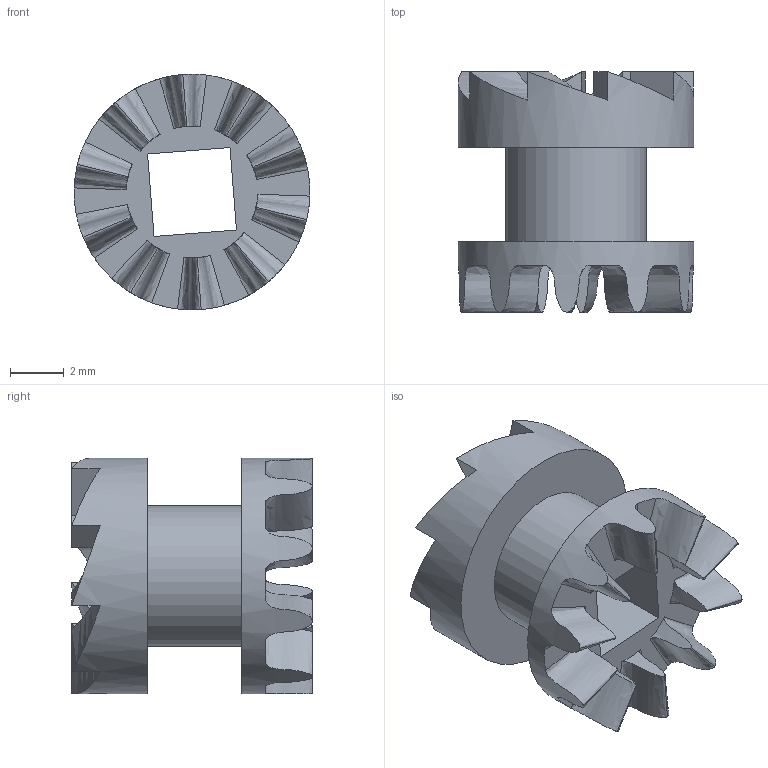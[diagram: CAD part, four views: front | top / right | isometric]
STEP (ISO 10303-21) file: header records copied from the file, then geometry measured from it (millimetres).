
FILE_DESCRIPTION(/* description */ (''),/* implementation_level */ '2;1');
FILE_NAME(/* name */ 'D:\Desktop\WatchCAdFiles\print2endTime\3.5\Solid18.stp',/* time_stamp */ '2019-05-02T16:59:03+02:00',/* author */ ('fkhad'),/* organization */ (''),/* preprocessor_version */ 'ST-DEVELOPER v17',/* originating_system */ 'Autodesk Inventor 2018',/* authorisation */ '');
FILE_SCHEMA (('AUTOMOTIVE_DESIGN { 1 0 10303 214 3 1 1 }'));
Length unit declared in the file: inch
Products named in the file (1): Solid18
Bounding box: 8.75 x 8.94 x 8.75 mm (x, y, z)
Volume: 218.4 mm3; surface area: 501.1 mm2
Topology: 1 solids, 1 shells, 68 faces, 178 edges, 114 vertices
Faces by surface type: bspline 29, cylinder 22, plane 17
Full cylindrical faces by diameter (mm): 5.25 x1, 8.75 x2
Entity records: 5585 total; most frequent: CARTESIAN_POINT 3984, ORIENTED_EDGE 356, DIRECTION 232, EDGE_CURVE 178, VERTEX_POINT 114, AXIS2_PLACEMENT_3D 80, EDGE_LOOP 72, LINE 72
